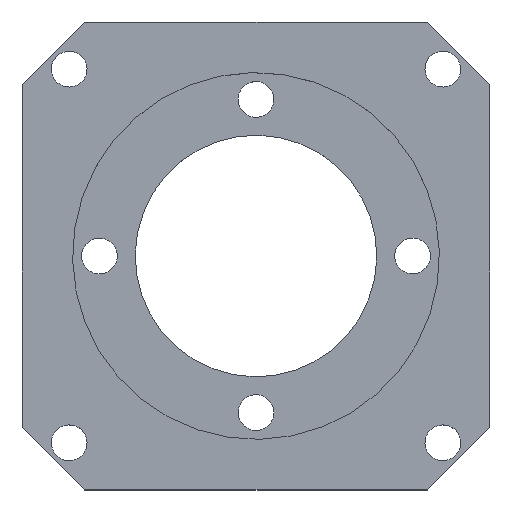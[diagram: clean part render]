
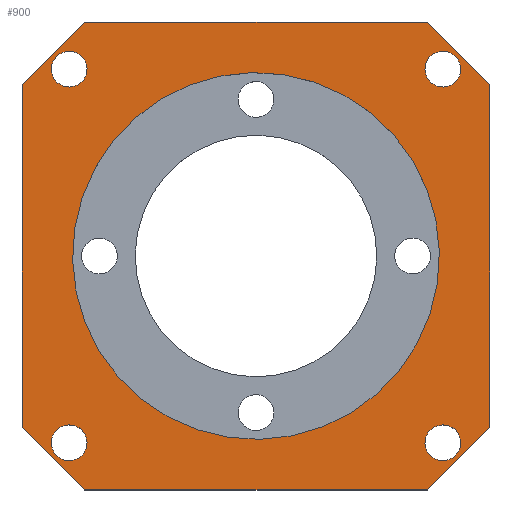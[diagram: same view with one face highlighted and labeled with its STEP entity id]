
A CAD part, top view. The second image highlights one B-rep face of the part: STEP entity #900.
In plain terms, the highlighted planar face has unit normal (0, 0, 1).
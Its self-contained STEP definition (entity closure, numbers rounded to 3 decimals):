
#63=CARTESIAN_POINT('Vertex',(-11.131,29.094,4.)) ;
#77=CARTESIAN_POINT('Vertex',(-7.621,27.177,4.)) ;
#80=CARTESIAN_POINT('Axis2P3D Location',(-9.376,28.135,4.)) ;
#97=CARTESIAN_POINT('Axis2P3D Location',(-9.376,28.135,4.)) ;
#120=CARTESIAN_POINT('Vertex',(-4.108,-11.897,4.)) ;
#134=CARTESIAN_POINT('Vertex',(-4.108,26.403,4.)) ;
#137=CARTESIAN_POINT('Line Origine',(-4.108,7.253,4.)) ;
#160=CARTESIAN_POINT('Vertex',(-49.408,33.403,4.)) ;
#163=CARTESIAN_POINT('Line Origine',(-30.258,33.403,4.)) ;
#167=CARTESIAN_POINT('Vertex',(-11.108,33.403,4.)) ;
#200=CARTESIAN_POINT('Vertex',(-56.408,-11.897,4.)) ;
#203=CARTESIAN_POINT('Line Origine',(-56.408,7.253,4.)) ;
#207=CARTESIAN_POINT('Vertex',(-56.408,26.403,4.)) ;
#240=CARTESIAN_POINT('Vertex',(-11.108,-18.897,4.)) ;
#243=CARTESIAN_POINT('Line Origine',(-30.258,-18.897,4.)) ;
#247=CARTESIAN_POINT('Vertex',(-49.408,-18.897,4.)) ;
#603=CARTESIAN_POINT('Axis2P3D Location',(-30.258,7.253,4.)) ;
#607=CARTESIAN_POINT('Vertex',(-12.268,-2.575,4.)) ;
#609=CARTESIAN_POINT('Vertex',(-48.249,17.081,4.)) ;
#629=CARTESIAN_POINT('Axis2P3D Location',(-30.258,7.253,4.)) ;
#651=CARTESIAN_POINT('Line Origine',(-7.608,-15.397,4.)) ;
#673=CARTESIAN_POINT('Line Origine',(-52.908,-15.397,4.)) ;
#695=CARTESIAN_POINT('Line Origine',(-52.908,29.903,4.)) ;
#717=CARTESIAN_POINT('Line Origine',(-7.608,29.903,4.)) ;
#823=CARTESIAN_POINT('Axis2P3D Location',(0.,0.,4.)) ;
#846=CARTESIAN_POINT('Axis2P3D Location',(-9.376,-13.629,4.)) ;
#850=CARTESIAN_POINT('Vertex',(-10.335,-15.384,4.)) ;
#852=CARTESIAN_POINT('Vertex',(-8.417,-11.874,4.)) ;
#855=CARTESIAN_POINT('Axis2P3D Location',(-9.376,-13.629,4.)) ;
#864=CARTESIAN_POINT('Axis2P3D Location',(-51.14,-13.629,4.)) ;
#868=CARTESIAN_POINT('Vertex',(-52.896,-12.67,4.)) ;
#870=CARTESIAN_POINT('Vertex',(-49.385,-14.588,4.)) ;
#873=CARTESIAN_POINT('Axis2P3D Location',(-51.14,-13.629,4.)) ;
#882=CARTESIAN_POINT('Axis2P3D Location',(-51.14,28.135,4.)) ;
#886=CARTESIAN_POINT('Vertex',(-50.182,29.891,4.)) ;
#888=CARTESIAN_POINT('Vertex',(-52.099,26.38,4.)) ;
#891=CARTESIAN_POINT('Axis2P3D Location',(-51.14,28.135,4.)) ;
#81=DIRECTION('Axis2P3D Direction',(0.,-0.,-1.)) ;
#98=DIRECTION('Axis2P3D Direction',(0.,-0.,-1.)) ;
#138=DIRECTION('Vector Direction',(0.,-1.,0.)) ;
#164=DIRECTION('Vector Direction',(1.,0.,0.)) ;
#204=DIRECTION('Vector Direction',(0.,1.,0.)) ;
#244=DIRECTION('Vector Direction',(-1.,0.,0.)) ;
#604=DIRECTION('Axis2P3D Direction',(0.,-0.,-1.)) ;
#630=DIRECTION('Axis2P3D Direction',(0.,-0.,-1.)) ;
#652=DIRECTION('Vector Direction',(-0.707,-0.707,0.)) ;
#674=DIRECTION('Vector Direction',(-0.707,0.707,0.)) ;
#696=DIRECTION('Vector Direction',(0.707,0.707,0.)) ;
#718=DIRECTION('Vector Direction',(0.707,-0.707,0.)) ;
#824=DIRECTION('Axis2P3D Direction',(0.,0.,1.)) ;
#825=DIRECTION('Axis2P3D XDirection',(1.,0.,0.)) ;
#847=DIRECTION('Axis2P3D Direction',(0.,0.,1.)) ;
#856=DIRECTION('Axis2P3D Direction',(0.,0.,1.)) ;
#865=DIRECTION('Axis2P3D Direction',(0.,0.,1.)) ;
#874=DIRECTION('Axis2P3D Direction',(0.,0.,1.)) ;
#883=DIRECTION('Axis2P3D Direction',(0.,0.,1.)) ;
#892=DIRECTION('Axis2P3D Direction',(0.,0.,1.)) ;
#82=AXIS2_PLACEMENT_3D('Circle Axis2P3D',#80,#81,$) ;
#99=AXIS2_PLACEMENT_3D('Circle Axis2P3D',#97,#98,$) ;
#605=AXIS2_PLACEMENT_3D('Circle Axis2P3D',#603,#604,$) ;
#631=AXIS2_PLACEMENT_3D('Circle Axis2P3D',#629,#630,$) ;
#826=AXIS2_PLACEMENT_3D('Plane Axis2P3D',#823,#824,#825) ;
#848=AXIS2_PLACEMENT_3D('Circle Axis2P3D',#846,#847,$) ;
#857=AXIS2_PLACEMENT_3D('Circle Axis2P3D',#855,#856,$) ;
#866=AXIS2_PLACEMENT_3D('Circle Axis2P3D',#864,#865,$) ;
#875=AXIS2_PLACEMENT_3D('Circle Axis2P3D',#873,#874,$) ;
#884=AXIS2_PLACEMENT_3D('Circle Axis2P3D',#882,#883,$) ;
#893=AXIS2_PLACEMENT_3D('Circle Axis2P3D',#891,#892,$) ;
#829=ORIENTED_EDGE('',*,*,#141,.T.) ;
#830=ORIENTED_EDGE('',*,*,#721,.F.) ;
#831=ORIENTED_EDGE('',*,*,#169,.T.) ;
#832=ORIENTED_EDGE('',*,*,#699,.F.) ;
#833=ORIENTED_EDGE('',*,*,#209,.T.) ;
#834=ORIENTED_EDGE('',*,*,#677,.F.) ;
#835=ORIENTED_EDGE('',*,*,#249,.T.) ;
#836=ORIENTED_EDGE('',*,*,#655,.F.) ;
#839=ORIENTED_EDGE('',*,*,#101,.F.) ;
#840=ORIENTED_EDGE('',*,*,#84,.F.) ;
#843=ORIENTED_EDGE('',*,*,#633,.F.) ;
#844=ORIENTED_EDGE('',*,*,#611,.F.) ;
#861=ORIENTED_EDGE('',*,*,#854,.F.) ;
#862=ORIENTED_EDGE('',*,*,#859,.F.) ;
#879=ORIENTED_EDGE('',*,*,#872,.F.) ;
#880=ORIENTED_EDGE('',*,*,#877,.F.) ;
#897=ORIENTED_EDGE('',*,*,#890,.F.) ;
#898=ORIENTED_EDGE('',*,*,#895,.F.) ;
#841=FACE_BOUND('',#838,.T.) ;
#845=FACE_BOUND('',#842,.T.) ;
#863=FACE_BOUND('',#860,.T.) ;
#881=FACE_BOUND('',#878,.T.) ;
#899=FACE_BOUND('',#896,.T.) ;
#139=VECTOR('Line Direction',#138,1.) ;
#165=VECTOR('Line Direction',#164,1.) ;
#205=VECTOR('Line Direction',#204,1.) ;
#245=VECTOR('Line Direction',#244,1.) ;
#653=VECTOR('Line Direction',#652,1.) ;
#675=VECTOR('Line Direction',#674,1.) ;
#697=VECTOR('Line Direction',#696,1.) ;
#719=VECTOR('Line Direction',#718,1.) ;
#900=ADVANCED_FACE('Corps principal',(#837,#841,#845,#863,#881,#899),#827,.T.) ;
#83=CIRCLE('generated circle',#82,2.) ;
#100=CIRCLE('generated circle',#99,2.) ;
#606=CIRCLE('generated circle',#605,20.5) ;
#632=CIRCLE('generated circle',#631,20.5) ;
#849=CIRCLE('generated circle',#848,2.) ;
#858=CIRCLE('generated circle',#857,2.) ;
#867=CIRCLE('generated circle',#866,2.) ;
#876=CIRCLE('generated circle',#875,2.) ;
#885=CIRCLE('generated circle',#884,2.) ;
#894=CIRCLE('generated circle',#893,2.) ;
#84=EDGE_CURVE('',#78,#64,#83,.F.) ;
#101=EDGE_CURVE('',#64,#78,#100,.F.) ;
#141=EDGE_CURVE('',#121,#135,#140,.F.) ;
#169=EDGE_CURVE('',#168,#161,#166,.F.) ;
#209=EDGE_CURVE('',#208,#201,#206,.F.) ;
#249=EDGE_CURVE('',#248,#241,#246,.F.) ;
#611=EDGE_CURVE('',#608,#610,#606,.F.) ;
#633=EDGE_CURVE('',#610,#608,#632,.F.) ;
#655=EDGE_CURVE('',#121,#241,#654,.T.) ;
#677=EDGE_CURVE('',#248,#201,#676,.T.) ;
#699=EDGE_CURVE('',#208,#161,#698,.T.) ;
#721=EDGE_CURVE('',#168,#135,#720,.T.) ;
#854=EDGE_CURVE('',#851,#853,#849,.T.) ;
#859=EDGE_CURVE('',#853,#851,#858,.T.) ;
#872=EDGE_CURVE('',#869,#871,#867,.T.) ;
#877=EDGE_CURVE('',#871,#869,#876,.T.) ;
#890=EDGE_CURVE('',#887,#889,#885,.T.) ;
#895=EDGE_CURVE('',#889,#887,#894,.T.) ;
#828=EDGE_LOOP('',(#829,#830,#831,#832,#833,#834,#835,#836)) ;
#838=EDGE_LOOP('',(#839,#840)) ;
#842=EDGE_LOOP('',(#843,#844)) ;
#860=EDGE_LOOP('',(#861,#862)) ;
#878=EDGE_LOOP('',(#879,#880)) ;
#896=EDGE_LOOP('',(#897,#898)) ;
#837=FACE_OUTER_BOUND('',#828,.T.) ;
#140=LINE('Line',#137,#139) ;
#166=LINE('Line',#163,#165) ;
#206=LINE('Line',#203,#205) ;
#246=LINE('Line',#243,#245) ;
#654=LINE('Line',#651,#653) ;
#676=LINE('Line',#673,#675) ;
#698=LINE('Line',#695,#697) ;
#720=LINE('Line',#717,#719) ;
#827=PLANE('Plane',#826) ;
#64=VERTEX_POINT('',#63) ;
#78=VERTEX_POINT('',#77) ;
#121=VERTEX_POINT('',#120) ;
#135=VERTEX_POINT('',#134) ;
#161=VERTEX_POINT('',#160) ;
#168=VERTEX_POINT('',#167) ;
#201=VERTEX_POINT('',#200) ;
#208=VERTEX_POINT('',#207) ;
#241=VERTEX_POINT('',#240) ;
#248=VERTEX_POINT('',#247) ;
#608=VERTEX_POINT('',#607) ;
#610=VERTEX_POINT('',#609) ;
#851=VERTEX_POINT('',#850) ;
#853=VERTEX_POINT('',#852) ;
#869=VERTEX_POINT('',#868) ;
#871=VERTEX_POINT('',#870) ;
#887=VERTEX_POINT('',#886) ;
#889=VERTEX_POINT('',#888) ;
